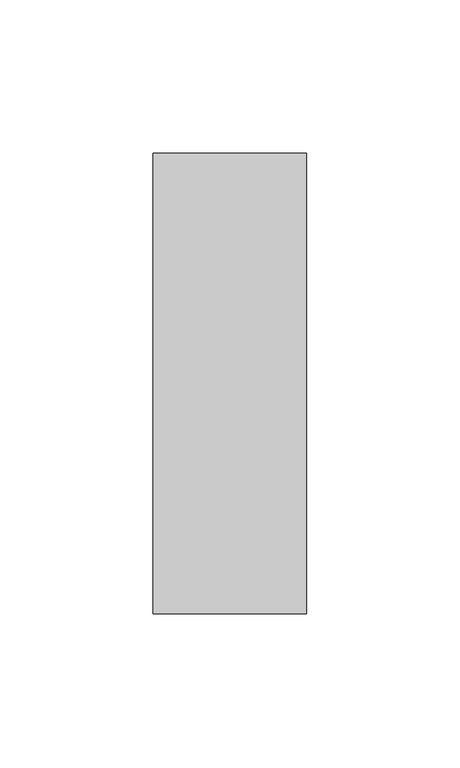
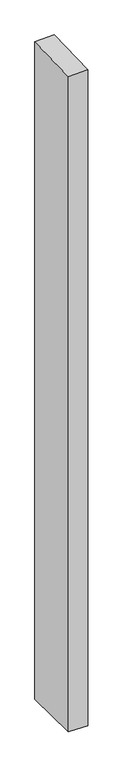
"""IFC4 building model written with IfcOpenShell, lengths in millimetres: member geometry, Прямоугольный импост : 50 x 150 мм."""

from ifc_helpers import new_model, si_unit, origin, place, context, project, spatial, faceted_brep, source, transform, mapped, element, save


def member_4f1dca9a(model_context):
    return source(origin(), model_context, "Body", "Brep", [
        faceted_brep([(-25.0, 75.0, 1.5041914), (25.0, 75.0, 3.0214726), (25.0, 75.0, -1791.8303915), (-25.0, 75.0, -1790.5528211), (-25.0, -75.0, -3.0214726), (-25.0, -75.0, -1788.4317916), (25.0, -75.0, -1.5041914), (25.0, -75.0, -1789.709362)], [[[0, 1, 2, 3]], [[4, 0, 3, 5]], [[6, 4, 5, 7]], [[1, 6, 7, 2]], [[1, 0, 4, 6]], [[2, 7, 5, 3]]]),
    ])


if __name__ == "__main__":
    model = new_model("IFC4")
    model_context = context("Model", 3, world=origin())
    ifc_project = project(units=[si_unit("LENGTHUNIT", "METRE", prefix="MILLI")], contexts=[model_context])
    site = spatial("IfcSite", under=ifc_project)
    building = spatial("IfcBuilding", under=site)
    placement = place(None, origin())
    member_shape = member_4f1dca9a(model_context)
    element("IfcMember", 1, ObjectType="Прямоугольный импост : 50 x 150 мм", at=placement, inside=building, context=model_context, shape_type="MappedRepresentation", body=[
        mapped(member_shape, transform((0.0, 0.0, 0.0), x_axis=(1.0, 0.0, 0.0), y_axis=(0.0, 1.0, 0.0), z_axis=(0.0, 0.0, 1.0))),
    ])
    save(model, "model.ifc")
